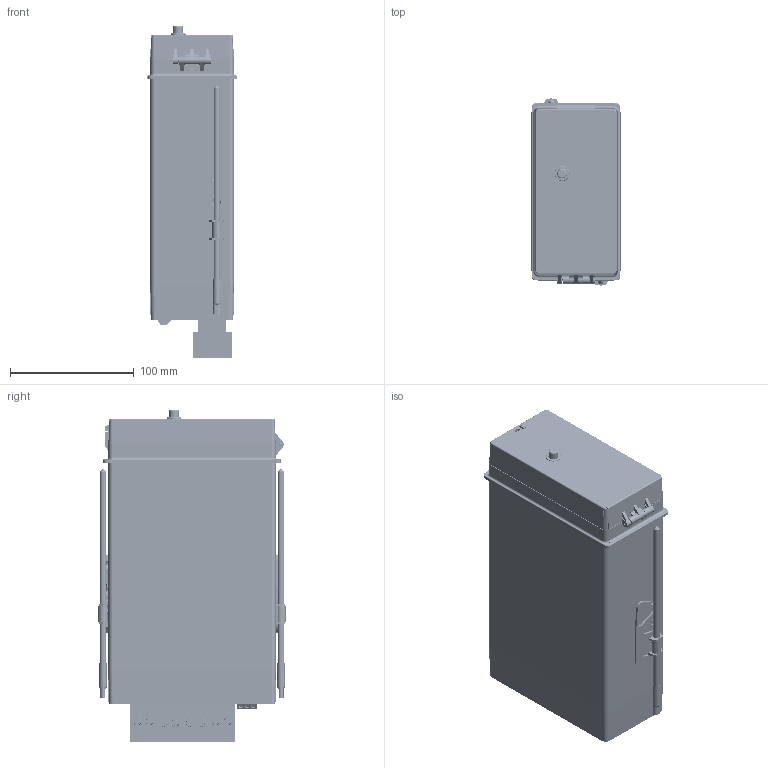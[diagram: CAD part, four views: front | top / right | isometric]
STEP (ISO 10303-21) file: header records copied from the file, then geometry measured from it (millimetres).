
FILE_DESCRIPTION (( 'STEP AP214' ), '1' );
FILE_NAME ('HighTECH Line.STEP', '2025-03-13T12:13:57', ( '' ), ( '' ), 'SwSTEP 2.0', 'SolidWorks 2023', '' );
FILE_SCHEMA (( 'AUTOMOTIVE_DESIGN' ));
Length unit declared in the file: millimetre
Products named in the file (1): HighTECH Line
Bounding box: 72 x 151.5 x 268.5 mm (x, y, z)
Volume: 591525 mm3; surface area: 301175.5 mm2
Topology: 89 solids, 89 shells, 4962 faces, 14476 edges, 10025 vertices
Faces by surface type: plane 4032, cylinder 439, bspline 302, cone 139, torus 36, sphere 14
Full cylindrical faces by diameter (mm): 0.296 x2, 1.5 x4, 2 x1, 2.05 x9, 2.5 x4, 2.6 x10, 3 x12, 3.18 x6, 3.7 x6, 3.83 x6, 3.9 x16, 5 x16, 6 x27, 6.2 x1, 7.5 x2, 7.9 x1, 8.2 x1, 10.1 x1, 12 x2
Entity records: 251873 total; most frequent: CARTESIAN_POINT 74164, ORIENTED_EDGE 28364, DIRECTION 23127, EDGE_CURVE 14182, LINE 11131, VECTOR 11131, VERTEX_POINT 9953, AXIS2_PLACEMENT_3D 5998
